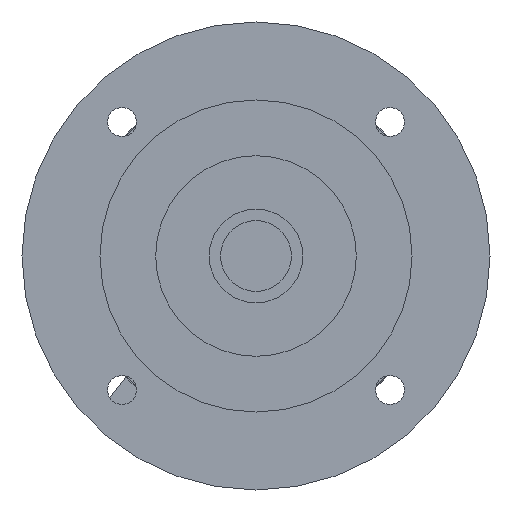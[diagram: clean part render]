
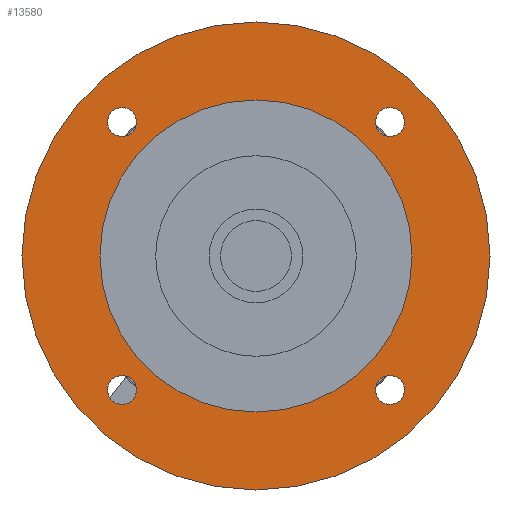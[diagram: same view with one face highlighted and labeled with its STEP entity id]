
A CAD part, left-side view. The second image highlights one B-rep face of the part: STEP entity #13580.
In plain terms, the highlighted planar face has unit normal (-1, 0, 0) as drawn and (0, 0, -1) by its records, which use the part's own axes.
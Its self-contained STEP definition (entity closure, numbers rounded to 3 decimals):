
#12420=CARTESIAN_POINT('',(26.802,-30.052,-42.2));
#12430=VERTEX_POINT('',#12420);
#12460=CARTESIAN_POINT('',(30.052,-30.052,-42.2));
#12470=DIRECTION('',(0.,0.,-1.));
#12480=DIRECTION('',(1.,0.,0.));
#12490=AXIS2_PLACEMENT_3D('',#12460,#12470,#12480);
#12500=CIRCLE('',#12490,3.25);
#12510=CARTESIAN_POINT('',(33.302,-30.052,-42.2));
#12520=VERTEX_POINT('',#12510);
#12530=EDGE_CURVE('',#12520,#12430,#12500,.T.);
#12650=CARTESIAN_POINT('',(0.,0.,
-42.2));
#12660=DIRECTION('',(0.,0.,-1.));
#12670=DIRECTION('',(1.,0.,0.));
#12680=AXIS2_PLACEMENT_3D('',#12650,#12660,#12670);
#12690=PLANE('',#12680);
#12700=ORIENTED_EDGE('',*,*,#12530,.F.);
#12710=EDGE_CURVE('',#12430,#12520,#12500,.T.);
#12720=ORIENTED_EDGE('',*,*,#12710,.F.);
#12730=EDGE_LOOP('',(#12720,#12700));
#12740=FACE_BOUND('',#12730,.T.);
#12750=CARTESIAN_POINT('',(0.,0.,
-42.2));
#12760=DIRECTION('',(0.,0.,-1.));
#12770=DIRECTION('',(0.,-1.,0.));
#12780=AXIS2_PLACEMENT_3D('',#12750,#12760,#12770);
#12790=CIRCLE('',#12780,52.5);
#12800=CARTESIAN_POINT('',(-52.5,0.,-42.2));
#12810=VERTEX_POINT('',#12800);
#12820=CARTESIAN_POINT('',(52.5,0.,-42.2));
#12830=VERTEX_POINT('',#12820);
#12840=EDGE_CURVE('',#12810,#12830,#12790,.T.);
#12850=ORIENTED_EDGE('',*,*,#12840,.T.);
#12860=CARTESIAN_POINT('',(0.,-52.5,-42.2));
#12870=VERTEX_POINT('',#12860);
#12880=EDGE_CURVE('',#12870,#12810,#12790,.T.);
#12890=ORIENTED_EDGE('',*,*,#12880,.T.);
#12900=EDGE_CURVE('',#12830,#12870,#12790,.T.);
#12910=ORIENTED_EDGE('',*,*,#12900,.T.);
#12920=EDGE_LOOP('',(#12910,#12890,#12850));
#12930=FACE_OUTER_BOUND('',#12920,.T.);
#12940=CARTESIAN_POINT('',(30.052,30.052,-42.2));
#12950=DIRECTION('',(0.,0.,-1.));
#12960=DIRECTION('',(0.,1.,0.));
#12970=AXIS2_PLACEMENT_3D('',#12940,#12950,#12960);
#12980=CIRCLE('',#12970,3.25);
#12990=CARTESIAN_POINT('',(30.052,33.302,-42.2));
#13000=VERTEX_POINT('',#12990);
#13010=CARTESIAN_POINT('',(30.052,26.802,-42.2));
#13020=VERTEX_POINT('',#13010);
#13030=EDGE_CURVE('',#13000,#13020,#12980,.T.);
#13040=ORIENTED_EDGE('',*,*,#13030,.F.);
#13050=EDGE_CURVE('',#13020,#13000,#12980,.T.);
#13060=ORIENTED_EDGE('',*,*,#13050,.F.);
#13070=EDGE_LOOP('',(#13060,#13040));
#13080=FACE_BOUND('',#13070,.T.);
#13090=CARTESIAN_POINT('',(-30.052,30.052,-42.2));
#13100=DIRECTION('',(0.,0.,-1.));
#13110=DIRECTION('',(-1.,0.,0.));
#13120=AXIS2_PLACEMENT_3D('',#13090,#13100,#13110);
#13130=CIRCLE('',#13120,3.25);
#13140=CARTESIAN_POINT('',(-33.302,30.052,-42.2));
#13150=VERTEX_POINT('',#13140);
#13160=CARTESIAN_POINT('',(-26.802,30.052,-42.2));
#13170=VERTEX_POINT('',#13160);
#13180=EDGE_CURVE('',#13150,#13170,#13130,.T.);
#13190=ORIENTED_EDGE('',*,*,#13180,.F.);
#13200=EDGE_CURVE('',#13170,#13150,#13130,.T.);
#13210=ORIENTED_EDGE('',*,*,#13200,.F.);
#13220=EDGE_LOOP('',(#13210,#13190));
#13230=FACE_BOUND('',#13220,.T.);
#13240=CARTESIAN_POINT('',(-30.052,-30.052,-42.2));
#13250=DIRECTION('',(0.,0.,-1.));
#13260=DIRECTION('',(0.,-1.,0.));
#13270=AXIS2_PLACEMENT_3D('',#13240,#13250,#13260);
#13280=CIRCLE('',#13270,3.25);
#13290=CARTESIAN_POINT('',(-30.052,-33.302,-42.2));
#13300=VERTEX_POINT('',#13290);
#13310=CARTESIAN_POINT('',(-30.052,-26.802,-42.2));
#13320=VERTEX_POINT('',#13310);
#13330=EDGE_CURVE('',#13300,#13320,#13280,.T.);
#13340=ORIENTED_EDGE('',*,*,#13330,.F.);
#13350=EDGE_CURVE('',#13320,#13300,#13280,.T.);
#13360=ORIENTED_EDGE('',*,*,#13350,.F.);
#13370=EDGE_LOOP('',(#13360,#13340));
#13380=FACE_BOUND('',#13370,.T.);
#13390=CARTESIAN_POINT('',(0.,0.,
-42.2));
#13400=DIRECTION('',(0.,0.,1.));
#13410=DIRECTION('',(0.,1.,0.));
#13420=AXIS2_PLACEMENT_3D('',#13390,#13400,#13410);
#13430=CIRCLE('',#13420,35.);
#13440=CARTESIAN_POINT('',(-35.,0.,-42.2));
#13450=VERTEX_POINT('',#13440);
#13460=CARTESIAN_POINT('',(35.,0.,-42.2));
#13470=VERTEX_POINT('',#13460);
#13480=EDGE_CURVE('',#13450,#13470,#13430,.T.);
#13490=ORIENTED_EDGE('',*,*,#13480,.T.);
#13500=CARTESIAN_POINT('',(0.,35.,-42.2));
#13510=VERTEX_POINT('',#13500);
#13520=EDGE_CURVE('',#13510,#13450,#13430,.T.);
#13530=ORIENTED_EDGE('',*,*,#13520,.T.);
#13540=EDGE_CURVE('',#13470,#13510,#13430,.T.);
#13550=ORIENTED_EDGE('',*,*,#13540,.T.);
#13560=EDGE_LOOP('',(#13550,#13530,#13490));
#13570=FACE_BOUND('',#13560,.T.);
#13580=ADVANCED_FACE('',(#12740,#12930,#13080,#13230,#13380,#13570),
#12690,.T.);
